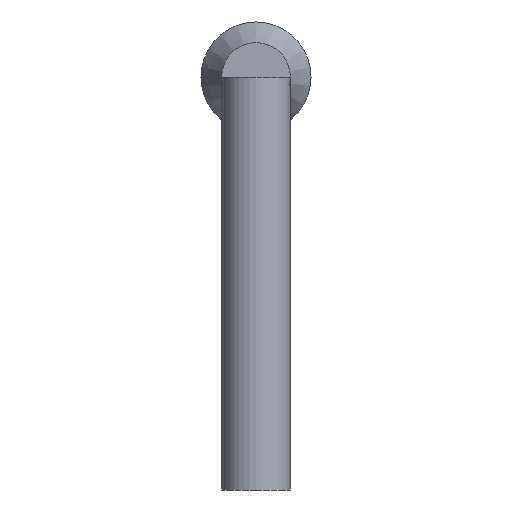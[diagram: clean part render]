
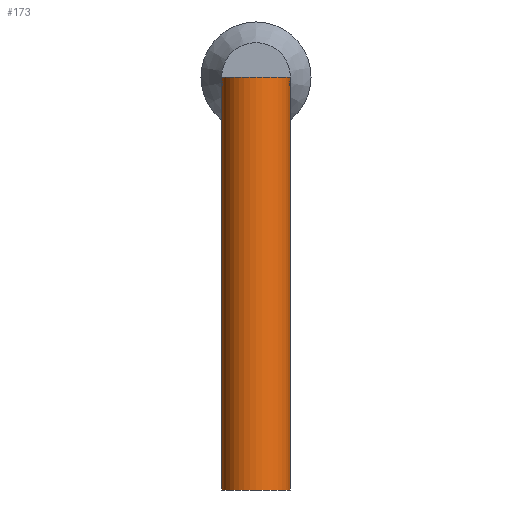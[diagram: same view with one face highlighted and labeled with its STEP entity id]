
A CAD part, left-side view. The second image highlights one B-rep face of the part: STEP entity #173.
In plain terms, the highlighted cylindrical face has radius 0.25 mm (diameter 0.5 mm), a full revolution.
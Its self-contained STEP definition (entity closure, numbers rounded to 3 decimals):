
#173 = ADVANCED_FACE('',(#174),#201,.T.);
#174 = FACE_BOUND('',#175,.T.);
#175 = EDGE_LOOP('',(#176,#185,#193,#200));
#176 = ORIENTED_EDGE('',*,*,#177,.F.);
#177 = EDGE_CURVE('',#178,#178,#180,.T.);
#178 = VERTEX_POINT('',#179);
#179 = CARTESIAN_POINT('',(-9.14,0.,-3.));
#180 = CIRCLE('',#181,0.25);
#181 = AXIS2_PLACEMENT_3D('',#182,#183,#184);
#182 = CARTESIAN_POINT('',(-8.89,0.,-3.));
#183 = DIRECTION('',(0.,0.,-1.));
#184 = DIRECTION('',(-1.,0.,-0.));
#185 = ORIENTED_EDGE('',*,*,#186,.F.);
#186 = EDGE_CURVE('',#187,#178,#189,.T.);
#187 = VERTEX_POINT('',#188);
#188 = CARTESIAN_POINT('',(-9.14,0.,0.));
#189 = LINE('',#190,#191);
#190 = CARTESIAN_POINT('',(-9.14,0.,0.));
#191 = VECTOR('',#192,1.);
#192 = DIRECTION('',(0.,0.,-1.));
#193 = ORIENTED_EDGE('',*,*,#194,.T.);
#194 = EDGE_CURVE('',#187,#187,#195,.T.);
#195 = CIRCLE('',#196,0.25);
#196 = AXIS2_PLACEMENT_3D('',#197,#198,#199);
#197 = CARTESIAN_POINT('',(-8.89,0.,0.));
#198 = DIRECTION('',(0.,0.,-1.));
#199 = DIRECTION('',(-1.,0.,-0.));
#200 = ORIENTED_EDGE('',*,*,#186,.T.);
#201 = CYLINDRICAL_SURFACE('',#202,0.25);
#202 = AXIS2_PLACEMENT_3D('',#203,#204,#205);
#203 = CARTESIAN_POINT('',(-8.89,0.,0.));
#204 = DIRECTION('',(0.,0.,-1.));
#205 = DIRECTION('',(-1.,0.,-0.));
